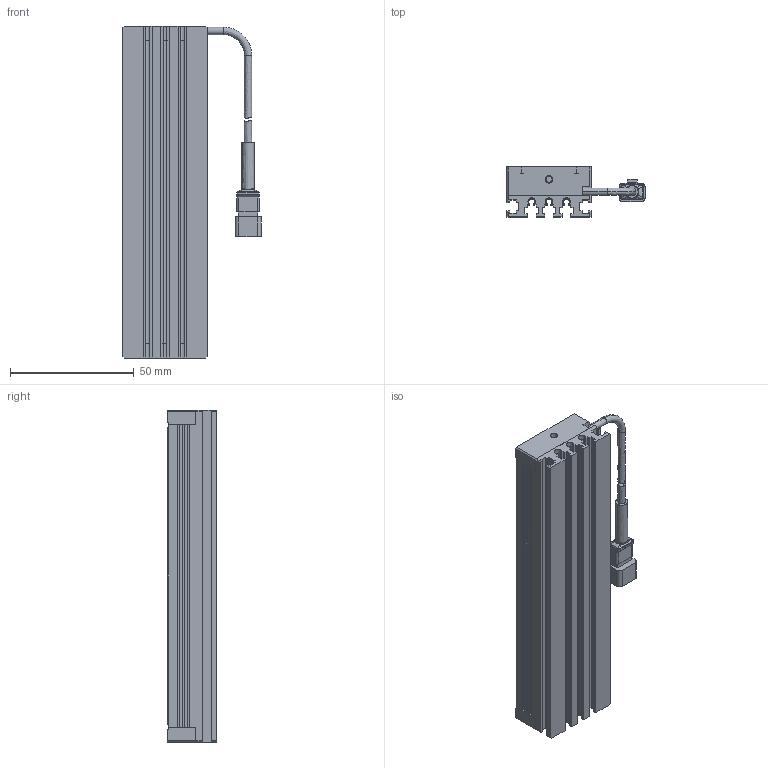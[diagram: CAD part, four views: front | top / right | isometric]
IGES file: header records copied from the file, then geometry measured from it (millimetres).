
Start section: SolidWorks IGES file using NURBS representation for surfaces
Global section: file name: \\nassrv01\ccs_c$\PRODUCTS\80_その他テーマ\RD32114_LDL2-GR2特注の標準化\02_図面\提出用\3D\33_LDL2-122X30GR2\26x30_LDL2-122X30GR2.IGS; native system: SolidWorks 2022; preprocessor: SolidWorks 2022; author: midorikawast; date: 240930.153900; units: millimetre
Bounding box: 55.75 x 20 x 134 mm (x, y, z)
Surface area: 42961.8 mm2 (no closed solid volume)
Topology: 0 solids, 0 shells, 481 faces, 4582 edges, 4566 vertices
Faces by surface type: bspline 481
